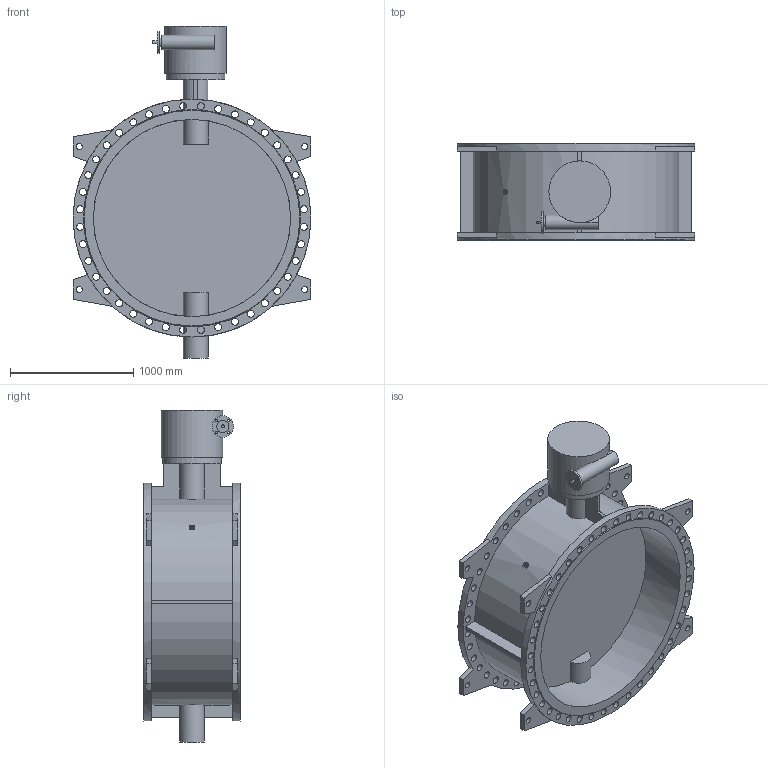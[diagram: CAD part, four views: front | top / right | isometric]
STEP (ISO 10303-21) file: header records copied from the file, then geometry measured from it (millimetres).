
FILE_DESCRIPTION(('STEP AP203'), '1');
FILE_NAME('Çàòâîð 023F.Z DN1600 PN16_ð-ð_ôë', '', ('UNSPECIFIED'), ('UNSPECIFIED'), 'ASCON STEP Converter 1.6', 'ASCON Math Kernel', '');
FILE_SCHEMA(('CONFIG_CONTROL_DESIGN'));
Length unit declared in the file: millimetre
Bounding box: 1930 x 790 x 2693 mm (x, y, z)
Volume: 565012866 mm3; surface area: 18349104.4 mm2
Topology: 1 solids, 1 shells, 247 faces, 644 edges, 426 vertices
Faces by surface type: cylinder 138, plane 107, cone 2
Full cylindrical faces by diameter (mm): 18 x4, 24 x1, 33 x8, 39 x8, 50 x8, 57 x80, 70 x1, 100 x1, 120 x1, 175 x1, 200 x1, 475 x1, 500 x1, 1600 x2, 1930 x2
Entity records: 10409 total; most frequent: CARTESIAN_POINT 2214, DIRECTION 1293, ORIENTED_EDGE 1036, EDGE_LOOP 581, AXIS2_PLACEMENT_3D 547, EDGE_CURVE 518, VERTEX_POINT 425, FACE_BOUND 346
